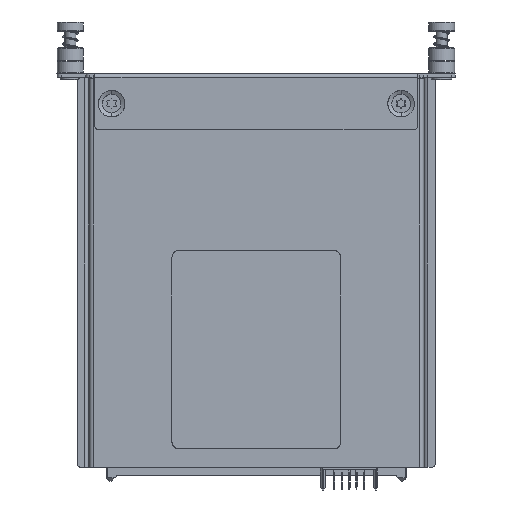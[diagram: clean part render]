
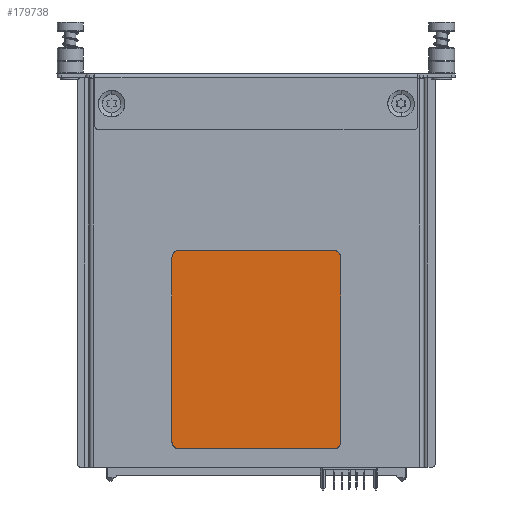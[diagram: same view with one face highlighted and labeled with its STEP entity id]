
A CAD part, front view. The second image highlights one B-rep face of the part: STEP entity #179738.
In plain terms, the highlighted planar face has unit normal (0, 1, 0).
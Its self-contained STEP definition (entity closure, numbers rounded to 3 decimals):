
#179652=CARTESIAN_POINT('',(22.75,-19.65,-48.55));
#179653=CARTESIAN_POINT('',(22.747,-19.65,-48.33));
#179654=CARTESIAN_POINT('',(22.682,-19.65,-47.916));
#179655=CARTESIAN_POINT('',(22.391,-19.65,-47.351));
#179656=CARTESIAN_POINT('',(21.949,-19.65,-46.909));
#179657=CARTESIAN_POINT('',(21.384,-19.65,-46.618));
#179658=CARTESIAN_POINT('',(20.97,-19.65,-46.553));
#179659=CARTESIAN_POINT('',(20.75,-19.65,-46.55));
#179661=DIRECTION('',(-1.,0.,0.));
#179662=VECTOR('',#179661,41.5);
#179663=CARTESIAN_POINT('',(20.75,-19.65,-46.55));
#179664=LINE('',#179663,#179662);
#179665=CARTESIAN_POINT('',(-20.75,-19.65,-46.55));
#179666=CARTESIAN_POINT('',(-20.97,-19.65,-46.553));
#179667=CARTESIAN_POINT('',(-21.384,-19.65,-46.618));
#179668=CARTESIAN_POINT('',(-21.949,-19.65,-46.909));
#179669=CARTESIAN_POINT('',(-22.391,-19.65,-47.351));
#179670=CARTESIAN_POINT('',(-22.682,-19.65,-47.916));
#179671=CARTESIAN_POINT('',(-22.747,-19.65,-48.33));
#179672=CARTESIAN_POINT('',(-22.75,-19.65,-48.55));
#179674=DIRECTION('',(0.,0.,-1.));
#179675=VECTOR('',#179674,49.5);
#179676=CARTESIAN_POINT('',(-22.75,-19.65,-48.55));
#179677=LINE('',#179676,#179675);
#179678=CARTESIAN_POINT('',(-22.75,-19.65,-98.05));
#179679=CARTESIAN_POINT('',(-22.747,-19.65,-98.27));
#179680=CARTESIAN_POINT('',(-22.682,-19.65,-98.684));
#179681=CARTESIAN_POINT('',(-22.391,-19.65,-99.249));
#179682=CARTESIAN_POINT('',(-21.949,-19.65,-99.691));
#179683=CARTESIAN_POINT('',(-21.384,-19.65,-99.982));
#179684=CARTESIAN_POINT('',(-20.97,-19.65,-100.047));
#179685=CARTESIAN_POINT('',(-20.75,-19.65,-100.05));
#179687=DIRECTION('',(1.,0.,0.));
#179688=VECTOR('',#179687,41.5);
#179689=CARTESIAN_POINT('',(-20.75,-19.65,-100.05));
#179690=LINE('',#179689,#179688);
#179691=CARTESIAN_POINT('',(20.75,-19.65,-100.05));
#179692=CARTESIAN_POINT('',(20.97,-19.65,-100.047));
#179693=CARTESIAN_POINT('',(21.384,-19.65,-99.982));
#179694=CARTESIAN_POINT('',(21.949,-19.65,-99.691));
#179695=CARTESIAN_POINT('',(22.391,-19.65,-99.249));
#179696=CARTESIAN_POINT('',(22.682,-19.65,-98.684));
#179697=CARTESIAN_POINT('',(22.747,-19.65,-98.27));
#179698=CARTESIAN_POINT('',(22.75,-19.65,-98.05));
#179700=DIRECTION('',(0.,0.,1.));
#179701=VECTOR('',#179700,49.5);
#179702=CARTESIAN_POINT('',(22.75,-19.65,-98.05));
#179703=LINE('',#179702,#179701);
#179704=VERTEX_POINT('',#179659);
#179705=VERTEX_POINT('',#179652);
#179706=CARTESIAN_POINT('',(22.75,-19.65,-98.05));
#179707=VERTEX_POINT('',#179706);
#179708=VERTEX_POINT('',#179691);
#179709=CARTESIAN_POINT('',(-20.75,-19.65,-100.05));
#179710=VERTEX_POINT('',#179709);
#179711=VERTEX_POINT('',#179678);
#179712=CARTESIAN_POINT('',(-22.75,-19.65,-48.55));
#179713=VERTEX_POINT('',#179712);
#179714=VERTEX_POINT('',#179665);
#179715=CARTESIAN_POINT('',(0.,-19.65,-73.3));
#179716=DIRECTION('',(0.,1.,0.));
#179717=DIRECTION('',(1.,0.,0.));
#179718=AXIS2_PLACEMENT_3D('',#179715,#179716,#179717);
#179719=PLANE('',#179718);
#179721=ORIENTED_EDGE('',*,*,#179720,.T.);
#179723=ORIENTED_EDGE('',*,*,#179722,.T.);
#179725=ORIENTED_EDGE('',*,*,#179724,.T.);
#179727=ORIENTED_EDGE('',*,*,#179726,.T.);
#179729=ORIENTED_EDGE('',*,*,#179728,.T.);
#179731=ORIENTED_EDGE('',*,*,#179730,.T.);
#179733=ORIENTED_EDGE('',*,*,#179732,.T.);
#179735=ORIENTED_EDGE('',*,*,#179734,.T.);
#179736=EDGE_LOOP('',(#179721,#179723,#179725,#179727,#179729,#179731,#179733,
#179735));
#179737=FACE_OUTER_BOUND('',#179736,.F.);
#179660=B_SPLINE_CURVE_WITH_KNOTS('',3,(#179652,#179653,#179654,#179655,#179656,
#179657,#179658,#179659),.UNSPECIFIED.,.F.,.F.,(4,1,1,1,1,4),(0.,0.2,0.4,
0.6,0.8,1.),.UNSPECIFIED.);
#179673=B_SPLINE_CURVE_WITH_KNOTS('',3,(#179665,#179666,#179667,#179668,#179669,
#179670,#179671,#179672),.UNSPECIFIED.,.F.,.F.,(4,1,1,1,1,4),(0.,0.2,0.4,
0.6,0.8,1.),.UNSPECIFIED.);
#179686=B_SPLINE_CURVE_WITH_KNOTS('',3,(#179678,#179679,#179680,#179681,#179682,
#179683,#179684,#179685),.UNSPECIFIED.,.F.,.F.,(4,1,1,1,1,4),(0.,0.2,0.4,
0.6,0.8,1.),.UNSPECIFIED.);
#179699=B_SPLINE_CURVE_WITH_KNOTS('',3,(#179691,#179692,#179693,#179694,#179695,
#179696,#179697,#179698),.UNSPECIFIED.,.F.,.F.,(4,1,1,1,1,4),(0.,0.2,0.4,
0.6,0.8,1.),.UNSPECIFIED.);
#179720=EDGE_CURVE('',#179705,#179704,#179660,.T.);
#179722=EDGE_CURVE('',#179704,#179714,#179664,.T.);
#179724=EDGE_CURVE('',#179714,#179713,#179673,.T.);
#179726=EDGE_CURVE('',#179713,#179711,#179677,.T.);
#179728=EDGE_CURVE('',#179711,#179710,#179686,.T.);
#179730=EDGE_CURVE('',#179710,#179708,#179690,.T.);
#179732=EDGE_CURVE('',#179708,#179707,#179699,.T.);
#179734=EDGE_CURVE('',#179707,#179705,#179703,.T.);
#179738=ADVANCED_FACE('',(#179737),#179719,.T.);
